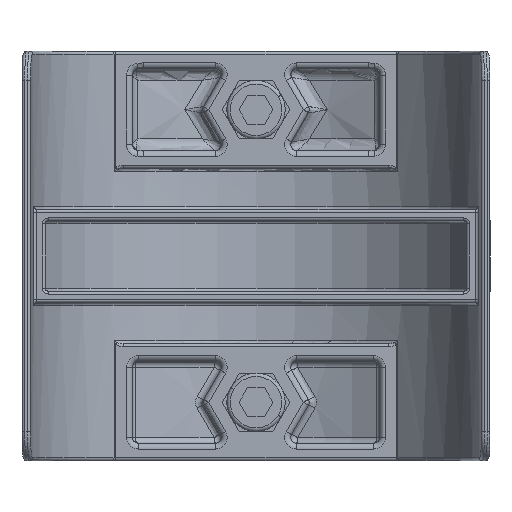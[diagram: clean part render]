
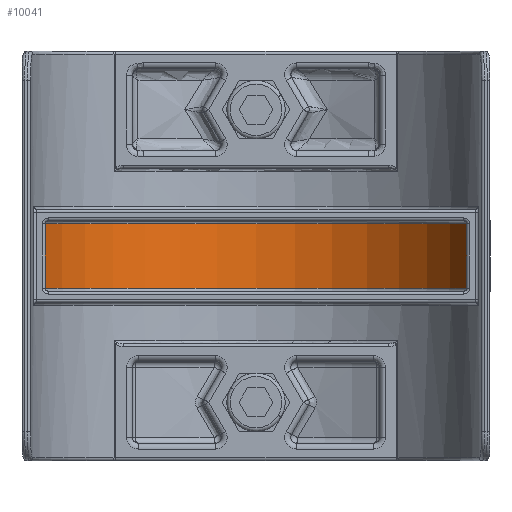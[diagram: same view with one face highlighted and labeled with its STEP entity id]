
A CAD part, front view. The second image highlights one B-rep face of the part: STEP entity #10041.
In plain terms, the highlighted cylindrical face has radius 38.5 mm (diameter 77 mm), a partial arc.
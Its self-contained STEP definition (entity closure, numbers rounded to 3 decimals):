
#146 = AXIS2_PLACEMENT_3D ( 'NONE', #7530, #2075, #9691 ) ;
#758 = CIRCLE ( 'NONE', #146, 38.5 ) ;
#827 = ORIENTED_EDGE ( 'NONE', *, *, #9371, .T. ) ;
#1155 = ORIENTED_EDGE ( 'NONE', *, *, #4462, .T. ) ;
#1293 = VECTOR ( 'NONE', #13112, 1000. ) ;
#1696 = ORIENTED_EDGE ( 'NONE', *, *, #2833, .T. ) ;
#1789 = CARTESIAN_POINT ( 'NONE',  ( 0., 0., 35. ) ) ;
#1791 = LINE ( 'NONE', #5688, #1293 ) ;
#2075 = DIRECTION ( 'NONE',  ( 0., 0., -1. ) ) ;
#2833 = EDGE_CURVE ( 'NONE', #9263, #9123, #7984, .T. ) ;
#2835 = EDGE_CURVE ( 'NONE', #12750, #12909, #758, .T. ) ;
#3023 = CYLINDRICAL_SURFACE ( 'NONE', #10087, 38.5 ) ;
#3197 = LINE ( 'NONE', #11189, #4217 ) ;
#3302 = CARTESIAN_POINT ( 'NONE',  ( 0., 0., 5.5 ) ) ;
#4217 = VECTOR ( 'NONE', #5826, 1000. ) ;
#4303 = DIRECTION ( 'NONE',  ( 0., 0., 1. ) ) ;
#4462 = EDGE_CURVE ( 'NONE', #9123, #12750, #1791, .T. ) ;
#5688 = CARTESIAN_POINT ( 'NONE',  ( -35.997, 13.655, 35. ) ) ;
#5826 = DIRECTION ( 'NONE',  ( 0., 0., 1. ) ) ;
#6034 = AXIS2_PLACEMENT_3D ( 'NONE', #3302, #4303, #10760 ) ;
#7530 = CARTESIAN_POINT ( 'NONE',  ( 0., 0., -5.5 ) ) ;
#7984 = CIRCLE ( 'NONE', #6034, 38.5 ) ;
#8266 = DIRECTION ( 'NONE',  ( 0., 0., -1. ) ) ;
#8398 = CARTESIAN_POINT ( 'NONE',  ( -35.997, 13.655, -5.5 ) ) ;
#9123 = VERTEX_POINT ( 'NONE', #12828 ) ;
#9263 = VERTEX_POINT ( 'NONE', #13048 ) ;
#9371 = EDGE_CURVE ( 'NONE', #12909, #9263, #3197, .T. ) ;
#9691 = DIRECTION ( 'NONE',  ( -1., 0., 0. ) ) ;
#9745 = ORIENTED_EDGE ( 'NONE', *, *, #2835, .T. ) ;
#9904 = FACE_OUTER_BOUND ( 'NONE', #10081, .T. ) ;
#10041 = ADVANCED_FACE ( 'NONE', ( #9904 ), #3023, .F. ) ;
#10081 = EDGE_LOOP ( 'NONE', ( #827, #1696, #1155, #9745 ) ) ;
#10087 = AXIS2_PLACEMENT_3D ( 'NONE', #1789, #8266, #11456 ) ;
#10760 = DIRECTION ( 'NONE',  ( 1., 0., 0. ) ) ;
#11189 = CARTESIAN_POINT ( 'NONE',  ( 35.997, 13.655, 35. ) ) ;
#11456 = DIRECTION ( 'NONE',  ( -1., 0., 0. ) ) ;
#11818 = CARTESIAN_POINT ( 'NONE',  ( 35.997, 13.655, -5.5 ) ) ;
#12750 = VERTEX_POINT ( 'NONE', #8398 ) ;
#12828 = CARTESIAN_POINT ( 'NONE',  ( -35.997, 13.655, 5.5 ) ) ;
#12909 = VERTEX_POINT ( 'NONE', #11818 ) ;
#13048 = CARTESIAN_POINT ( 'NONE',  ( 35.997, 13.655, 5.5 ) ) ;
#13112 = DIRECTION ( 'NONE',  ( 0., 0., -1. ) ) ;
